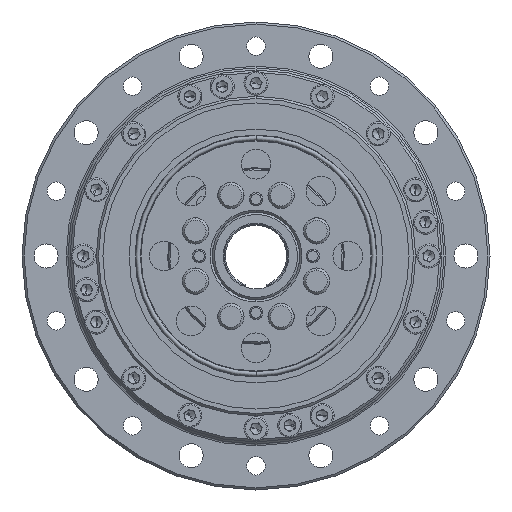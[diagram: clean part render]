
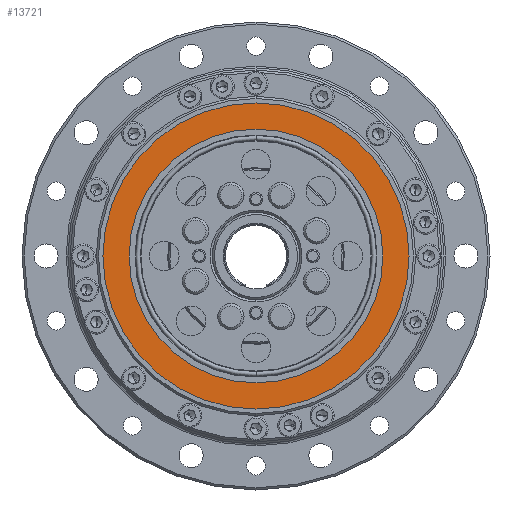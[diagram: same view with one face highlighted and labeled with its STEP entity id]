
A CAD part, left-side view. The second image highlights one B-rep face of the part: STEP entity #13721.
In plain terms, the highlighted planar face has unit normal (-1, 0, 0).
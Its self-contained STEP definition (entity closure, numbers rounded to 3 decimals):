
#170 = VERTEX_POINT ( 'NONE', #8537 ) ;
#2093 = CIRCLE ( 'NONE', #34337, 35. ) ;
#2242 = CIRCLE ( 'NONE', #18022, 35. ) ;
#6479 = DIRECTION ( 'NONE',  ( -1., 0., 0. ) ) ;
#6596 = FACE_BOUND ( 'NONE', #26979, .T. ) ;
#7036 = AXIS2_PLACEMENT_3D ( 'NONE', #15464, #44459, #19629 ) ;
#7876 = FACE_OUTER_BOUND ( 'NONE', #25242, .T. ) ;
#8537 = CARTESIAN_POINT ( 'NONE',  ( -16.314, 0., -29. ) ) ;
#9630 = CARTESIAN_POINT ( 'NONE',  ( -16.314, 0., 0. ) ) ;
#13721 = ADVANCED_FACE ( 'NONE', ( #6596, #7876 ), #14986, .F. ) ;
#13805 = DIRECTION ( 'NONE',  ( 0., 0., 1. ) ) ;
#14405 = CARTESIAN_POINT ( 'NONE',  ( -16.314, 0., 35. ) ) ;
#14986 = PLANE ( 'NONE',  #31459 ) ;
#15040 = ORIENTED_EDGE ( 'NONE', *, *, #46113, .F. ) ;
#15464 = CARTESIAN_POINT ( 'NONE',  ( -16.314, 0., 0. ) ) ;
#16677 = CARTESIAN_POINT ( 'NONE',  ( -16.314, 0., -35. ) ) ;
#18022 = AXIS2_PLACEMENT_3D ( 'NONE', #23221, #52098, #27407 ) ;
#19629 = DIRECTION ( 'NONE',  ( 0., 0., 1. ) ) ;
#20158 = ORIENTED_EDGE ( 'NONE', *, *, #47659, .F. ) ;
#22281 = EDGE_CURVE ( 'NONE', #170, #26307, #24155, .T. ) ;
#23221 = CARTESIAN_POINT ( 'NONE',  ( -16.314, 0., 0. ) ) ;
#24130 = ORIENTED_EDGE ( 'NONE', *, *, #27864, .F. ) ;
#24155 = CIRCLE ( 'NONE', #40715, 29. ) ;
#24460 = VERTEX_POINT ( 'NONE', #14405 ) ;
#25242 = EDGE_LOOP ( 'NONE', ( #15040, #24130 ) ) ;
#26307 = VERTEX_POINT ( 'NONE', #45488 ) ;
#26979 = EDGE_LOOP ( 'NONE', ( #20158, #29275 ) ) ;
#27407 = DIRECTION ( 'NONE',  ( 0., 0., 1. ) ) ;
#27501 = DIRECTION ( 'NONE',  ( 0., 0., -1. ) ) ;
#27864 = EDGE_CURVE ( 'NONE', #29696, #24460, #2093, .T. ) ;
#29275 = ORIENTED_EDGE ( 'NONE', *, *, #22281, .F. ) ;
#29696 = VERTEX_POINT ( 'NONE', #16677 ) ;
#31332 = CARTESIAN_POINT ( 'NONE',  ( -16.314, 0., 0. ) ) ;
#31459 = AXIS2_PLACEMENT_3D ( 'NONE', #39856, #52182, #27501 ) ;
#33253 = CIRCLE ( 'NONE', #7036, 29. ) ;
#34337 = AXIS2_PLACEMENT_3D ( 'NONE', #9630, #38696, #13805 ) ;
#35482 = DIRECTION ( 'NONE',  ( 0., 0., 1. ) ) ;
#38696 = DIRECTION ( 'NONE',  ( 1., 0., 0. ) ) ;
#39856 = CARTESIAN_POINT ( 'NONE',  ( -16.314, -35.42, 35.42 ) ) ;
#40715 = AXIS2_PLACEMENT_3D ( 'NONE', #31332, #6479, #35482 ) ;
#44459 = DIRECTION ( 'NONE',  ( -1., 0., 0. ) ) ;
#45488 = CARTESIAN_POINT ( 'NONE',  ( -16.314, 0., 29. ) ) ;
#46113 = EDGE_CURVE ( 'NONE', #24460, #29696, #2242, .T. ) ;
#47659 = EDGE_CURVE ( 'NONE', #26307, #170, #33253, .T. ) ;
#52098 = DIRECTION ( 'NONE',  ( 1., 0., 0. ) ) ;
#52182 = DIRECTION ( 'NONE',  ( 1., 0., 0. ) ) ;
